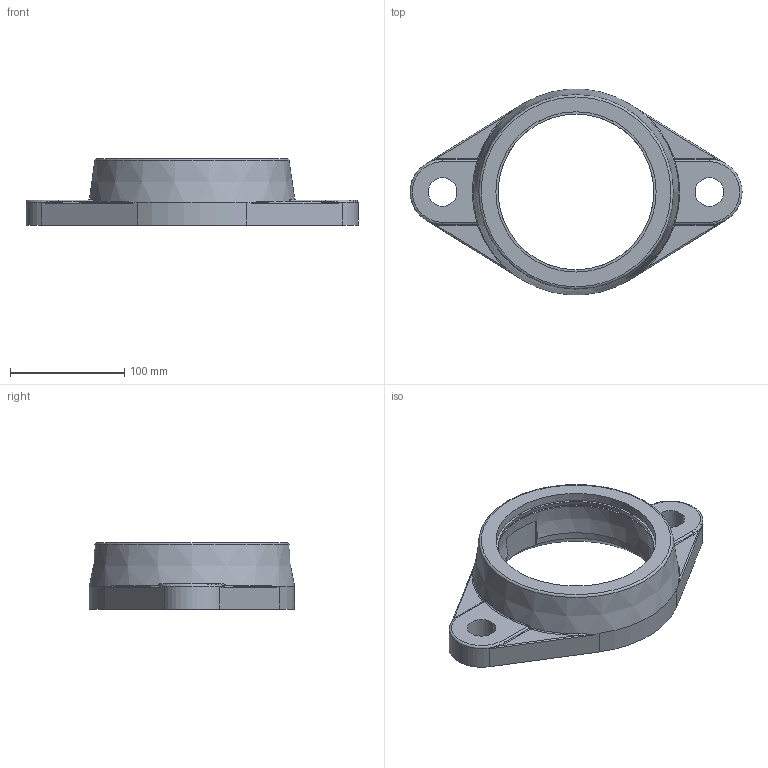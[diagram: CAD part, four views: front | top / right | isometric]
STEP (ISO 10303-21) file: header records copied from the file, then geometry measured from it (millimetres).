
FILE_DESCRIPTION(/* description */ (''),/* implementation_level */ '2;1');
FILE_NAME(/* name */ 'C:\MOJE SUBORY\03_Doplnenie 3D modelov\fmc\FM216.stp',/* time_stamp */ '2020-12-15T13:12:51+01:00',/* author */ ('OUPIONTEKM'),/* organization */ (''),/* preprocessor_version */ 'ST-DEVELOPER v18.1',/* originating_system */ 'Autodesk Inventor 2021',/* authorisation */ '');
FILE_SCHEMA (('AUTOMOTIVE_DESIGN { 1 0 10303 214 3 1 1 }'));
Length unit declared in the file: millimetre
Products named in the file (1): FM216
Bounding box: 290 x 179.43 x 58 mm (x, y, z)
Volume: 671504.7 mm3; surface area: 97263.7 mm2
Topology: 1 solids, 1 shells, 88 faces, 216 edges, 125 vertices
Faces by surface type: cylinder 24, plane 23, bspline 20, torus 13, sphere 6, cone 2
Full cylindrical faces by diameter (mm): 25 x2, 140.055 x1, 141.661 x1
Entity records: 3633 total; most frequent: CARTESIAN_POINT 1636, ORIENTED_EDGE 416, DIRECTION 404, EDGE_CURVE 208, AXIS2_PLACEMENT_3D 175, VERTEX_POINT 125, CIRCLE 106, EDGE_LOOP 97
